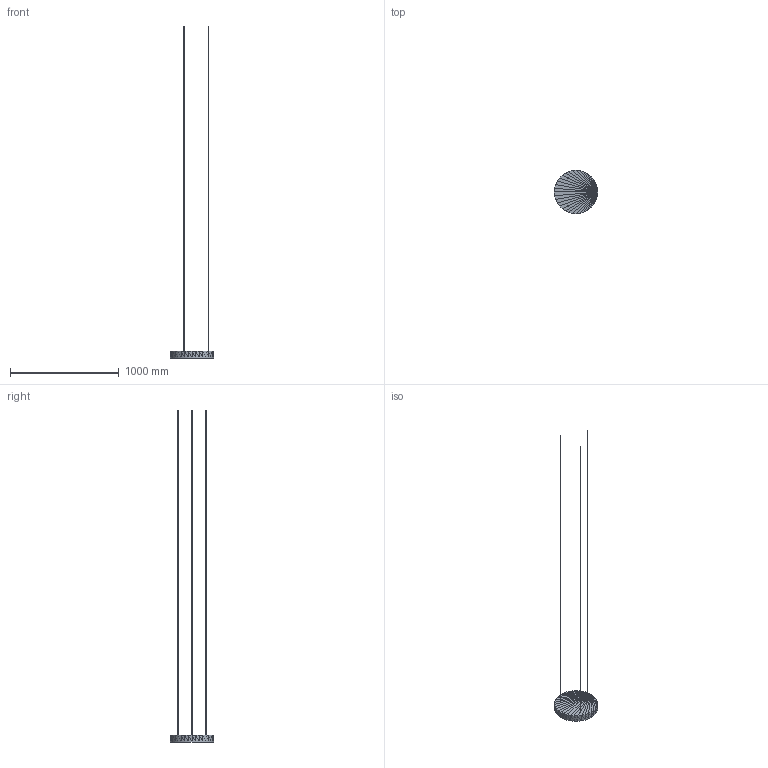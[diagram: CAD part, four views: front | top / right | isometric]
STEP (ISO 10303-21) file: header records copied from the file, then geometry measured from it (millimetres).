
FILE_DESCRIPTION(('ISINAC STEP AP214'),'2;1');
FILE_NAME('ISINAC_CIR.400_60mm_COLGADO','2026-05-03T10:49:19',('ISINAC'),('www.isinac.com'),'ISINAC BIM Generator 1.0','','');
FILE_SCHEMA(('AUTOMOTIVE_DESIGN'));
Length unit declared in the file: millimetre
Products named in the file (1): ISINAC_CIR.400_60mm_COLGADO
Bounding box: 400 x 400 x 3060 mm (x, y, z)
Surface area: 406390.2 mm2 (no closed solid volume)
Topology: 0 solids, 200 shells, 200 faces, 600 edges, 600 vertices
Faces by surface type: plane 200
Entity records: 2213 total; most frequent: CARTESIAN_POINT 800, DIRECTION 400, POLY_LOOP 200, FACE_OUTER_BOUND 200, AXIS2_PLACEMENT_3D 200, PLANE 200, FACE_SURFACE 200, CLOSED_SHELL 1
